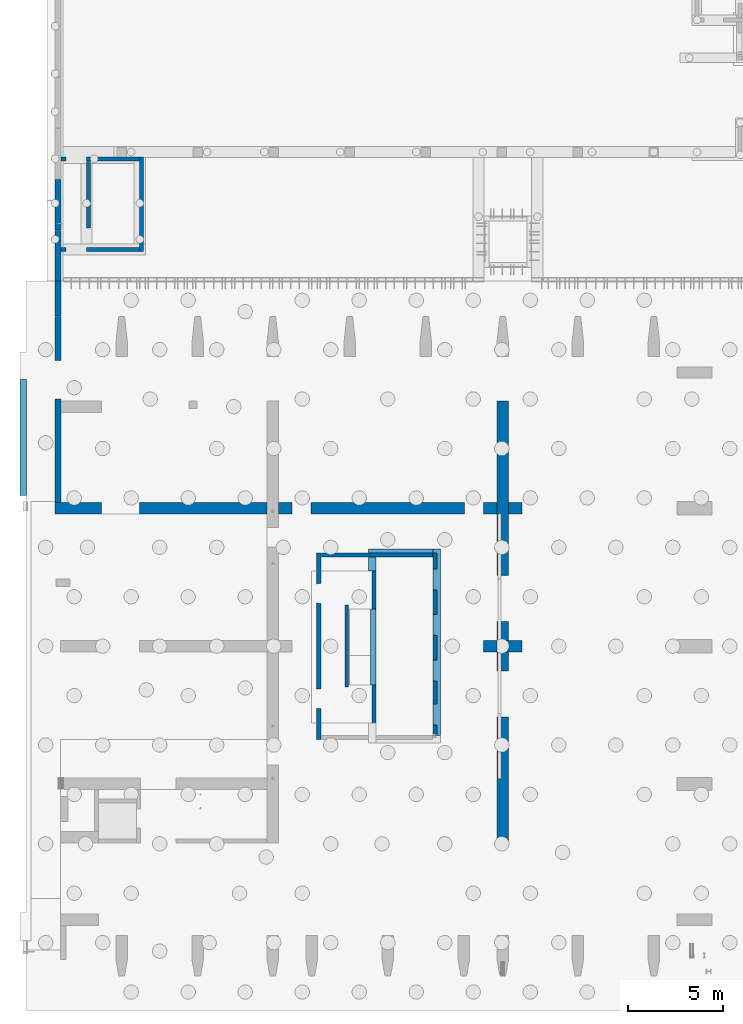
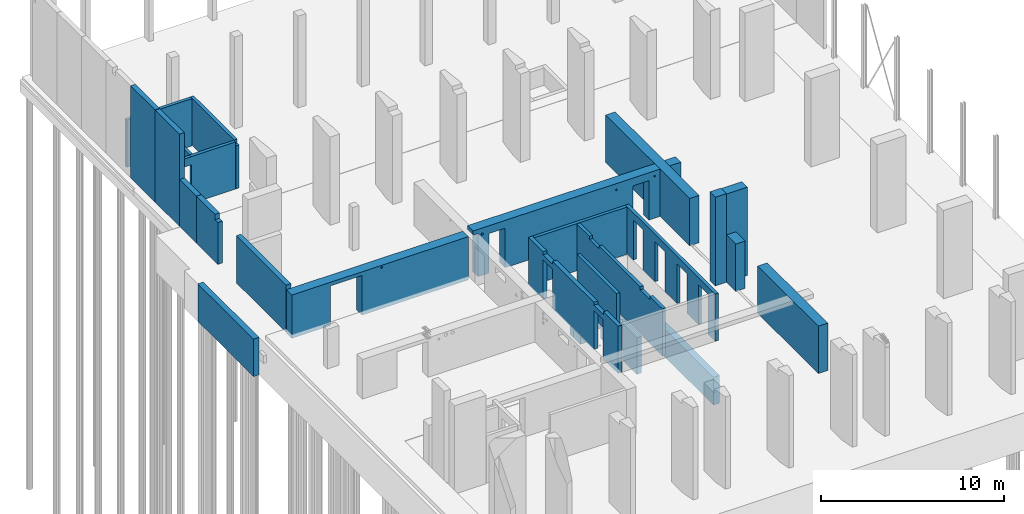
# One storey, part 19 of 26: 24 walls, 35 openings.
"""IFC2X3 building model written with IfcOpenShell, lengths in millimetres."""

from ifc_helpers import new_model, entity, si_unit, converted_unit, derived_unit, direction, frame, frame_2d, origin, origin_2d_with_axis, place, context, subcontext, project, spatial, rectangle, circle, extrude, faceted_brep, material, layer, layer_set, layer_usage, type_object, element, save


model = new_model("IFC2X3")

# Units and contexts
model_context = context("Model", 3, precision=0.01, world=origin(), true_north=direction((6.12303176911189e-17, 1.0)))
body_context = subcontext(model_context, "Body", "Model", "MODEL_VIEW")
ifc_project = project(units=[si_unit("LENGTHUNIT", "METRE", prefix="MILLI"), si_unit("AREAUNIT", "SQUARE_METRE"), si_unit("VOLUMEUNIT", "CUBIC_METRE"), converted_unit("PLANEANGLEUNIT", "DEGREE", entity("IfcRatioMeasure", 0.0174532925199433), si_unit("PLANEANGLEUNIT", "RADIAN"), dimensions=[0, 0, 0, 0, 0, 0, 0]), si_unit("MASSUNIT", "GRAM", prefix="KILO"), derived_unit("MASSDENSITYUNIT", [(si_unit("MASSUNIT", "GRAM", prefix="KILO"), 1), (si_unit("LENGTHUNIT", "METRE"), -3)]), si_unit("TIMEUNIT", "SECOND"), si_unit("FREQUENCYUNIT", "HERTZ"), si_unit("THERMODYNAMICTEMPERATUREUNIT", "DEGREE_CELSIUS"), derived_unit("THERMALTRANSMITTANCEUNIT", [(si_unit("MASSUNIT", "GRAM", prefix="KILO"), 1), (si_unit("THERMODYNAMICTEMPERATUREUNIT", "KELVIN"), -1), (si_unit("TIMEUNIT", "SECOND"), -3)]), derived_unit("VOLUMETRICFLOWRATEUNIT", [(si_unit("LENGTHUNIT", "METRE"), 3), (si_unit("TIMEUNIT", "SECOND"), -1)]), si_unit("ELECTRICCURRENTUNIT", "AMPERE"), si_unit("ELECTRICVOLTAGEUNIT", "VOLT"), si_unit("POWERUNIT", "WATT"), si_unit("FORCEUNIT", "NEWTON", prefix="KILO"), si_unit("ILLUMINANCEUNIT", "LUX"), si_unit("LUMINOUSFLUXUNIT", "LUMEN"), si_unit("LUMINOUSINTENSITYUNIT", "CANDELA"), derived_unit("USERDEFINED", [(si_unit("MASSUNIT", "GRAM", prefix="KILO"), -1), (si_unit("LENGTHUNIT", "METRE"), -2), (si_unit("TIMEUNIT", "SECOND"), 3), (si_unit("LUMINOUSFLUXUNIT", "LUMEN"), 1)]), derived_unit("LINEARVELOCITYUNIT", [(si_unit("LENGTHUNIT", "METRE"), 1), (si_unit("TIMEUNIT", "SECOND"), -1)]), si_unit("PRESSUREUNIT", "PASCAL"), derived_unit("USERDEFINED", [(si_unit("LENGTHUNIT", "METRE"), -2), (si_unit("MASSUNIT", "GRAM", prefix="KILO"), 1), (si_unit("TIMEUNIT", "SECOND"), -2)])], contexts=[model_context])

# Site, building, storey
site_placement = place(None, origin())
site = spatial("IfcSite", under=ifc_project, at=site_placement, Name="Default", CompositionType="ELEMENT")
building_placement = place(site_placement, origin())
building = spatial("IfcBuilding", under=site, at=building_placement, Name="niet gebruiken", CompositionType="ELEMENT")
storey_placement = place(building_placement, origin())
storey = spatial("IfcBuildingStorey", under=building, at=storey_placement, Name="00 begane grond", CompositionType="ELEMENT", Elevation=0.0)

# Walls
ifc_material_1 = material(Name="NLRS_f2_beton ihwg")
ifc_layer_1 = layer(ifc_material_1, 400.0)
ifc_layer_set_1 = layer_set([ifc_layer_1], Name="Basic Wall:NLRS_16.21_WA_beton ihwg d=400_gen")
ifc_layer_usage_1 = layer_usage(ifc_layer_set_1, "AXIS2", "NEGATIVE", 200.0)
wall_type_1 = type_object("IfcWallType", Name="Basic Wall:NLRS_16.21_WA_beton ihwg d=400_gen", PredefinedType="STANDARD", material=ifc_layer_set_1)
wall_1_placement = place(storey_placement, frame((144330.0, 12800.0, -4600.0), z_axis=(0.0, 0.0, 1.0), x_axis=(0.0, 1.0, 0.0)))
element("IfcWallStandardCase", 1, at=wall_1_placement, inside=storey, type_object=wall_type_1, material=ifc_layer_usage_1, Name="Basic Wall:NLRS_16.21_WA_beton ihwg d=400_gen", ObjectType="Basic Wall:NLRS_16.21_WA_beton ihwg d=400_gen", context=body_context, shape_type="SweptSolid", body=[
    extrude(rectangle(XDim=9800.00000000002, YDim=400.000000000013, at=frame_2d((4900.00000000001, 3.69482222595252e-13), x_axis=(-1.0, 0.0))), origin(), (0.0, 0.0, 1.0), 1850.0),
])
ifc_layer_usage_2 = layer_usage(ifc_layer_set_1, "AXIS2", "NEGATIVE", 200.0)
wall_2_placement = place(storey_placement, frame((144130.0, 22400.0, -4600.0), z_axis=(0.0, 0.0, 1.0), x_axis=(-1.0, 0.0, 0.0)))
element("IfcWallStandardCase", 2, at=wall_2_placement, inside=storey, type_object=wall_type_1, material=ifc_layer_usage_2, Name="Basic Wall:NLRS_16.21_WA_beton ihwg d=400_gen", ObjectType="Basic Wall:NLRS_16.21_WA_beton ihwg d=400_gen", context=body_context, shape_type="SweptSolid", body=[
    extrude(rectangle(XDim=3400.00000000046, YDim=399.999999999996, at=frame_2d((1700.00000000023, 5.82645043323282e-13), x_axis=(-1.0, 0.0))), origin(), (0.0, 0.0, 1.0), 1850.0),
])
ifc_layer_usage_3 = layer_usage(ifc_layer_set_1, "AXIS2", "NEGATIVE", 200.0)
wall_3_placement = place(storey_placement, frame((140930.0, 22200.0, -4600.0), z_axis=(0.0, 0.0, 1.0), x_axis=(0.0, -1.0, 0.0)))
element("IfcWallStandardCase", 3, at=wall_3_placement, inside=storey, type_object=wall_type_1, material=ifc_layer_usage_3, Name="Basic Wall:NLRS_16.21_WA_beton ihwg d=400_gen", ObjectType="Basic Wall:NLRS_16.21_WA_beton ihwg d=400_gen", context=body_context, shape_type="SweptSolid", body=[
    extrude(rectangle(XDim=755.000000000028, YDim=400.000000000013, at=frame_2d((377.500000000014, 0.0), x_axis=(-1.0, 0.0))), origin(), (0.0, 0.0, 1.0), 1850.0),
])

# Wall, openings
ifc_layer_2 = layer(ifc_material_1, 600.0)
ifc_layer_set_2 = layer_set([ifc_layer_2], Name="Basic Wall:NLRS_22.21_WA_beton ihwg d=600_gen")
ifc_layer_usage_4 = layer_usage(ifc_layer_set_2, "AXIS2", "NEGATIVE", 300.0)
wall_type_2 = type_object("IfcWallType", Name="Basic Wall:NLRS_22.21_WA_beton ihwg d=600_gen", PredefinedType="STANDARD", material=ifc_layer_set_2)
wall_4_placement = place(storey_placement, frame((124250.0, 24750.0, -250.0)))
wall_4 = element("IfcWallStandardCase", 4, at=wall_4_placement, inside=storey, type_object=wall_type_2, material=ifc_layer_usage_4, Name="Basic Wall:NLRS_22.21_WA_beton ihwg d=600_gen", ObjectType="Basic Wall:NLRS_22.21_WA_beton ihwg d=600_gen", context=body_context, shape_type="SweptSolid", body=[
    extrude(rectangle(XDim=24564.0, YDim=600.000000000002, at=frame_2d((12282.0, -2.8421709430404e-14), x_axis=(-1.0, 0.0))), origin(), (0.0, 0.0, 1.0), 3160.0),
])
opening_1_placement = place(storey_placement, frame((124250.0, 24750.0, -250.0)))
element("IfcOpeningElement", 5, at=opening_1_placement, cuts=wall_4, Name="Basic Wall:NLRS_22.21_WA_beton ihwg d=600_gen:1", ObjectType="Opening", context=body_context, shape_type="SweptSolid", body=[
    extrude(rectangle(XDim=3160.0, YDim=599.999999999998, at=frame_2d((268.000000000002, 59.9999999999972), x_axis=(1.0, 0.0))), frame((23250.0, -60.0, 1848.0), z_axis=(1.0, 0.0, 0.0), x_axis=(0.0, 0.0, -1.0)), (0.0, 0.0, 1.0), 600.000000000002),
])
opening_2_placement = place(storey_placement, frame((124250.0, 24750.0, -250.0)))
element("IfcOpeningElement", 6, at=opening_2_placement, cuts=wall_4, Name="Basic Wall:NLRS_22.21_WA_beton ihwg d=600_gen:2", ObjectType="Opening", context=body_context, shape_type="SweptSolid", body=[
    extrude(rectangle(XDim=2890.0, YDim=599.999999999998, at=origin_2d_with_axis()), frame((11150.0, 0.0, 1445.0), z_axis=(1.0, 0.0, 0.0), x_axis=(0.0, 0.0, -1.0)), (0.0, 0.0, 1.0), 600.000000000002),
])
opening_3_placement = place(wall_4_placement, origin())
element("IfcOpeningElement", 7, at=opening_3_placement, cuts=wall_4, Name="Basic Wall:NLRS_22.21_WA_beton ihwg d=600_gen", ObjectType="Opening", context=body_context, shape_type="SweptSolid", body=[
    extrude(rectangle(XDim=2650.0, YDim=1985.0, at=frame_2d((0.0, -8.69704308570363e-12), x_axis=(1.0, 0.0))), frame((3432.49999999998, -300.0, 1325.0), z_axis=(0.0, 1.0, 0.0), x_axis=(0.0, 0.0, -1.0)), (0.0, 0.0, 1.0), 600.000000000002),
])
opening_4_placement = place(wall_4_placement, origin())
element("IfcOpeningElement", 8, at=opening_4_placement, cuts=wall_4, Name="Basic Wall:NLRS_22.21_WA_beton ihwg d=600_gen", ObjectType="Opening", context=body_context, shape_type="SweptSolid", body=[
    extrude(rectangle(XDim=2635.0, YDim=1015.99999999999, at=frame_2d((0.0, -8.66862137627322e-12), x_axis=(1.0, 0.0))), frame((12958.0, -300.0, 1317.5), z_axis=(0.0, 1.0, 0.0), x_axis=(0.0, 0.0, -1.0)), (0.0, 0.0, 1.0), 600.000000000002),
])
opening_5_placement = place(wall_4_placement, origin())
element("IfcOpeningElement", 9, at=opening_5_placement, cuts=wall_4, Name="Basic Wall:NLRS_22.21_WA_beton ihwg d=600_gen", ObjectType="Opening", context=body_context, shape_type="SweptSolid", body=[
    extrude(rectangle(XDim=2635.0, YDim=1015.99999999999, at=frame_2d((0.0, -8.66862137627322e-12), x_axis=(1.0, 0.0))), frame((22042.0, -300.0, 1317.5), z_axis=(0.0, 1.0, 0.0), x_axis=(0.0, 0.0, -1.0)), (0.0, 0.0, 1.0), 600.000000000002),
])
opening_6_placement = place(wall_4_placement, origin())
element("IfcOpeningElement", 10, at=opening_6_placement, cuts=wall_4, Name="Basic Wall:NLRS_22.21_WA_beton ihwg d=600_gen", ObjectType="Opening", context=body_context, shape_type="SweptSolid", body=[
    extrude(circle(Radius=62.5, at=origin_2d_with_axis()), frame((5675.0, -300.0, 2750.0), z_axis=(0.0, 1.0, 0.0), x_axis=(1.0, 0.0, 0.0)), (0.0, 0.0, 1.0), 600.000000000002),
])
opening_7_placement = place(wall_4_placement, origin())
element("IfcOpeningElement", 11, at=opening_7_placement, cuts=wall_4, Name="Basic Wall:NLRS_22.21_WA_beton ihwg d=600_gen", ObjectType="Opening", context=body_context, shape_type="SweptSolid", body=[
    extrude(circle(Radius=80.0, at=frame_2d((0.0, -5.41433564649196e-13), x_axis=(1.0, 0.0))), frame((12025.0, -300.0, 2750.0), z_axis=(0.0, 1.0, 0.0), x_axis=(1.0, 0.0, 0.0)), (0.0, 0.0, 1.0), 600.000000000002),
])
opening_8_placement = place(wall_4_placement, origin())
element("IfcOpeningElement", 12, at=opening_8_placement, cuts=wall_4, Name="Basic Wall:NLRS_22.21_WA_beton ihwg d=600_gen", ObjectType="Opening", context=body_context, shape_type="SweptSolid", body=[
    extrude(circle(Radius=55.0, at=origin_2d_with_axis()), frame((20485.0, -300.0, 2750.0), z_axis=(0.0, 1.0, 0.0), x_axis=(1.0, 0.0, 0.0)), (0.0, 0.0, 1.0), 600.000000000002),
])
opening_9_placement = place(wall_4_placement, origin())
element("IfcOpeningElement", 13, at=opening_9_placement, cuts=wall_4, Name="Basic Wall:NLRS_22.21_WA_beton ihwg d=600_gen", ObjectType="Opening", context=body_context, shape_type="SweptSolid", body=[
    extrude(circle(Radius=55.0, at=origin_2d_with_axis()), frame((22900.0, -300.0, 2800.0), z_axis=(0.0, 1.0, 0.0), x_axis=(1.0, 0.0, 0.0)), (0.0, 0.0, 1.0), 600.000000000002),
])
opening_10_placement = place(wall_4_placement, origin())
element("IfcOpeningElement", 14, at=opening_10_placement, cuts=wall_4, Name="Basic Wall:NLRS_22.21_WA_beton ihwg d=600_gen", ObjectType="Opening", context=body_context, shape_type="SweptSolid", body=[
    extrude(rectangle(XDim=270.0, YDim=11450.0000000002, at=frame_2d((-8.64019966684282e-12, -2.70006239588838e-13), x_axis=(0.0, 1.0))), frame((5725.0, 300.0, 3025.0), z_axis=(0.0, -1.0, 0.0), x_axis=(-1.0, 0.0, 0.0)), (0.0, 0.0, 1.0), 600.0),
])

# Wall
ifc_layer_usage_5 = layer_usage(ifc_layer_set_2, "AXIS2", "NEGATIVE", 300.0)
wall_5_placement = place(storey_placement, frame((146800.0, 17500.0, -250.0)))
element("IfcWallStandardCase", 15, at=wall_5_placement, inside=storey, type_object=wall_type_2, material=ifc_layer_usage_5, Name="Basic Wall:NLRS_22.21_WA_beton ihwg d=600_gen", ObjectType="Basic Wall:NLRS_22.21_WA_beton ihwg d=600_gen", context=body_context, shape_type="SweptSolid", body=[
    extrude(rectangle(XDim=700.000000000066, YDim=600.000000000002, at=frame_2d((350.000000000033, 5.6843418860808e-14), x_axis=(-1.0, 0.0))), origin(), (0.0, 0.0, 1.0), 5920.0),
])

# Wall, openings
ifc_layer_usage_6 = layer_usage(ifc_layer_set_2, "AXIS2", "POSITIVE", -300.0)
wall_6_placement = place(storey_placement, frame((147800.0, 7150.0, -250.0), z_axis=(0.0, 0.0, 1.0), x_axis=(0.0, 1.0, 0.0)))
wall_6 = element("IfcWallStandardCase", 16, at=wall_6_placement, inside=storey, type_object=wall_type_2, material=ifc_layer_usage_6, Name="Basic Wall:NLRS_22.21_WA_beton ihwg d=600_gen", ObjectType="Basic Wall:NLRS_22.21_WA_beton ihwg d=600_gen", context=body_context, shape_type="SweptSolid", body=[
    extrude(rectangle(XDim=23249.9999597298, YDim=600.000000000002, at=frame_2d((11624.9999798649, 2.04636307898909e-12), x_axis=(-1.0, 0.0))), origin(), (0.0, 0.0, 1.0), 3160.0),
])
opening_11_placement = place(storey_placement, frame((147800.0, 7150.0, -250.0), z_axis=(0.0, 0.0, 1.0), x_axis=(0.0, 1.0, 0.0)))
element("IfcOpeningElement", 17, at=opening_11_placement, cuts=wall_6, Name="Basic Wall:NLRS_22.21_WA_beton ihwg d=600_gen:1", ObjectType="Opening", context=body_context, shape_type="SweptSolid", body=[
    extrude(rectangle(XDim=3160.0, YDim=600.000000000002, at=origin_2d_with_axis()), frame((10050.0, 0.0, 1580.0), z_axis=(1.0, 0.0, 0.0), x_axis=(0.0, 0.0, -1.0)), (0.0, 0.0, 1.0), 600.0),
])
opening_12_placement = place(wall_6_placement, origin())
element("IfcOpeningElement", 18, at=opening_12_placement, cuts=wall_6, Name="Basic Wall:NLRS_22.21_WA_beton ihwg d=600_gen", ObjectType="Opening", context=body_context, shape_type="SweptSolid", body=[
    extrude(rectangle(XDim=3560.0, YDim=2410.0, at=frame_2d((0.0, -1.13686837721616e-12), x_axis=(1.0, 0.0))), frame((7837.50000000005, -300.0, 1780.0), z_axis=(0.0, 1.0, 0.0), x_axis=(0.0, 0.0, -1.0)), (0.0, 0.0, 1.0), 600.000000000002),
])
opening_13_placement = place(wall_6_placement, origin())
element("IfcOpeningElement", 19, at=opening_13_placement, cuts=wall_6, Name="Basic Wall:NLRS_22.21_WA_beton ihwg d=600_gen", ObjectType="Opening", context=body_context, shape_type="SweptSolid", body=[
    extrude(rectangle(XDim=3560.0, YDim=2410.0, at=frame_2d((0.0, 1.13686837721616e-12), x_axis=(1.0, 0.0))), frame((12862.5, -300.0, 1780.0), z_axis=(0.0, 1.0, 0.0), x_axis=(0.0, 0.0, -1.0)), (0.0, 0.0, 1.0), 600.000000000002),
])
opening_14_placement = place(wall_6_placement, origin())
element("IfcOpeningElement", 20, at=opening_14_placement, cuts=wall_6, Name="Basic Wall:NLRS_22.21_WA_beton ihwg d=600_gen", ObjectType="Opening", context=body_context, shape_type="SweptSolid", body=[
    extrude(rectangle(XDim=100.0, YDim=240.000000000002, at=frame_2d((-5.43565192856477e-13, -2.16715534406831e-12), x_axis=(1.0, 0.0))), frame((15650.0, -300.0, 5500.0), z_axis=(0.0, 1.0, 0.0), x_axis=(0.0, 0.0, -1.0)), (0.0, 0.0, 1.0), 600.000000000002),
])

# Wall
ifc_layer_usage_7 = layer_usage(ifc_layer_set_2, "AXIS2", "NEGATIVE", 300.0)
wall_7_placement = place(storey_placement, frame((147500.0, 17500.0, -250.0)))
element("IfcWallStandardCase", 21, at=wall_7_placement, inside=storey, type_object=wall_type_2, material=ifc_layer_usage_7, Name="Basic Wall:NLRS_22.21_WA_beton ihwg d=600_gen", ObjectType="Basic Wall:NLRS_22.21_WA_beton ihwg d=600_gen", context=body_context, shape_type="SweptSolid", body=[
    extrude(rectangle(XDim=1313.99999999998, YDim=600.000000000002, at=frame_2d((656.999999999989, -8.5265128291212e-14), x_axis=(-1.0, 0.0))), origin(), (0.0, 0.0, 1.0), 5890.0),
])

# Wall, openings
ifc_material_2 = material(Name="NLRS_f2_beton prefab")
ifc_layer_3 = layer(ifc_material_2, 200.0)
ifc_layer_set_3 = layer_set([ifc_layer_3], Name="Basic Wall:NLRS_22.21_WA_beton prefab d=200_gen")
ifc_layer_usage_8 = layer_usage(ifc_layer_set_3, "AXIS2", "NEGATIVE", 100.0)
wall_type_3 = type_object("IfcWallType", Name="Basic Wall:NLRS_22.21_WA_beton prefab d=200_gen", PredefinedType="STANDARD", material=ifc_layer_set_3)
wall_8_placement = place(storey_placement, frame((124570.0, 43130.0, -220.0)))
wall_8 = element("IfcWallStandardCase", 22, at=wall_8_placement, inside=storey, type_object=wall_type_3, material=ifc_layer_usage_8, Name="Basic Wall:NLRS_22.21_WA_beton prefab d=200_gen", ObjectType="Basic Wall:NLRS_22.21_WA_beton prefab d=200_gen", context=body_context, shape_type="SweptSolid", body=[
    extrude(rectangle(XDim=1329.99999999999, YDim=200.000000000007, at=frame_2d((664.999999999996, -2.35189645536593e-12), x_axis=(-1.0, 0.0))), origin(), (0.0, 0.0, 1.0), 3150.0),
])
opening_15_placement = place(wall_8_placement, origin())
element("IfcOpeningElement", 23, at=opening_15_placement, cuts=wall_8, Name="Basic Wall:NLRS_22.21_WA_beton prefab d=200_gen", ObjectType="Opening", context=body_context, shape_type="SweptSolid", body=[
    extrude(rectangle(XDim=2605.0, YDim=1080.0, at=origin_2d_with_axis()), frame((790.0, -100.0, 1302.5), z_axis=(0.0, 1.0, 0.0), x_axis=(0.0, 0.0, -1.0)), (0.0, 0.0, 1.0), 200.000000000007),
])
opening_16_placement = place(wall_8_placement, frame((238.0, -100.0, 0.0)))
element("IfcOpeningElement", 24, at=opening_16_placement, cuts=wall_8, Name="Basic Wall:NLRS_22.21_WA_beton prefab d=200_gen", ObjectType="Opening", context=body_context, shape_type="Brep", body=[
    faceted_brep([(12.0, 200.0, 2605.0), (1092.0, 200.0, 2605.0), (1092.0, 200.0, 0.0), (12.0, 200.0, 0.0), (0.0, 0.0, 2617.0), (0.0, 0.0, 0.0), (1104.0, 0.0, 0.0), (1104.0, 0.0, 2617.0)], [[[0, 1, 2, 3]], [[4, 5, 6, 7]], [[4, 7, 1, 0]], [[7, 6, 2, 1]], [[6, 5, 3, 2]], [[5, 4, 0, 3]]]),
])

ifc_layer_usage_9 = layer_usage(ifc_layer_set_3, "AXIS2", "NEGATIVE", 100.0)
wall_9_placement = place(storey_placement, frame((124570.0, 38370.0, -220.0)))
wall_9 = element("IfcWallStandardCase", 25, at=wall_9_placement, inside=storey, type_object=wall_type_3, material=ifc_layer_usage_9, Name="Basic Wall:NLRS_22.21_WA_beton prefab d=200_gen", ObjectType="Basic Wall:NLRS_22.21_WA_beton prefab d=200_gen", context=body_context, shape_type="SweptSolid", body=[
    extrude(rectangle(XDim=4109.99999999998, YDim=199.999999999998, at=frame_2d((2054.99999999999, -3.90798504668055e-13), x_axis=(-1.0, 0.0))), origin(), (0.0, 0.0, 1.0), 3150.0),
])
opening_17_placement = place(wall_9_placement, origin())
element("IfcOpeningElement", 26, at=opening_17_placement, cuts=wall_9, Name="Basic Wall:NLRS_22.21_WA_beton prefab d=200_gen", ObjectType="Opening", context=body_context, shape_type="SweptSolid", body=[
    extrude(rectangle(XDim=19.9999999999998, YDim=1040.00000000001, at=frame_2d((0.0, -1.72803993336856e-11), x_axis=(1.0, 0.0))), frame((784.0, -100.0, 3140.0), z_axis=(0.0, 1.0, 0.0), x_axis=(0.0, 0.0, -1.0)), (0.0, 0.0, 1.0), 200.000000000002),
])
opening_18_placement = place(wall_9_placement, frame((238.0, -100.0, 0.0)))
element("IfcOpeningElement", 27, at=opening_18_placement, cuts=wall_9, Name="Basic Wall:NLRS_22.21_WA_beton prefab d=200_gen", ObjectType="Opening", context=body_context, shape_type="Brep", body=[
    faceted_brep([(1092.0, 0.0, 2605.0), (12.0, 0.0, 2605.0), (12.0, 0.0, 0.0), (1092.0, 0.0, 0.0), (1104.0, 200.0, 2617.0), (1104.0, 200.0, 0.0), (0.0, 200.0, 0.0), (0.0, 200.0, 2617.0)], [[[0, 1, 2, 3]], [[4, 5, 6, 7]], [[4, 7, 1, 0]], [[7, 6, 2, 1]], [[6, 5, 3, 2]], [[5, 4, 0, 3]]]),
])

ifc_layer_usage_10 = layer_usage(ifc_layer_set_3, "AXIS2", "NEGATIVE", 100.0)
wall_10_placement = place(storey_placement, frame((126000.0, 38490.0, -220.0), z_axis=(0.0, 0.0, 1.0), x_axis=(0.0, 1.0, 0.0)))
wall_10 = element("IfcWallStandardCase", 28, at=wall_10_placement, inside=storey, type_object=wall_type_3, material=ifc_layer_usage_10, Name="Basic Wall:NLRS_22.21_WA_beton prefab d=200_gen", ObjectType="Basic Wall:NLRS_22.21_WA_beton prefab d=200_gen", context=body_context, shape_type="SweptSolid", body=[
    extrude(rectangle(XDim=4520.00000000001, YDim=199.999999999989, at=frame_2d((2260.0, 0.0), x_axis=(-1.0, 0.0))), origin(), (0.0, 0.0, 1.0), 3150.0),
])
opening_19_placement = place(wall_10_placement, frame((-32.0, 100.0, 0.0)))
element("IfcOpeningElement", 29, at=opening_19_placement, cuts=wall_10, Name="Basic Wall:NLRS_22.21_WA_beton prefab d=200_gen", ObjectType="Opening", context=body_context, shape_type="Brep", body=[
    faceted_brep([(1038.0, 0.0, 2605.0), (1038.0, 0.0, 0.0), (12.0, 0.0, 0.0), (12.0, 0.0, 2605.0), (1050.0, -200.0, 2617.0), (0.0, -200.0, 2617.0), (0.0, -200.0, 0.0), (1050.0, -200.0, 0.0)], [[[0, 1, 2, 3]], [[4, 5, 6, 7]], [[4, 0, 3, 5]], [[5, 3, 2, 6]], [[6, 2, 1, 7]], [[7, 1, 0, 4]]]),
])
opening_20_placement = place(wall_10_placement, origin())
element("IfcOpeningElement", 30, at=opening_20_placement, cuts=wall_10, Name="Basic Wall:NLRS_22.21_WA_beton prefab d=200_gen", ObjectType="Opening", context=body_context, shape_type="SweptSolid", body=[
    extrude(rectangle(XDim=19.9999999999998, YDim=1017.99999999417, at=origin_2d_with_axis()), frame((509.0, -100.0, 3140.0), z_axis=(0.0, 1.0, 0.0), x_axis=(0.0, 0.0, -1.0)), (0.0, 0.0, 1.0), 199.999999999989),
])

# Wall, opening
ifc_layer_usage_11 = layer_usage(ifc_layer_set_3, "AXIS2", "NEGATIVE", 100.0)
wall_11_placement = place(storey_placement, frame((128800.0, 38270.0, -220.0), z_axis=(0.0, 0.0, 1.0), x_axis=(0.0, 1.0, 0.0)))
wall_11 = element("IfcWallStandardCase", 31, at=wall_11_placement, inside=storey, type_object=wall_type_3, material=ifc_layer_usage_11, Name="Basic Wall:NLRS_22.21_WA_beton prefab d=200_gen", ObjectType="Basic Wall:NLRS_22.21_WA_beton prefab d=200_gen", context=body_context, shape_type="SweptSolid", body=[
    extrude(rectangle(XDim=4960.0, YDim=199.999999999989, at=frame_2d((2480.0, 0.0), x_axis=(-1.0, 0.0))), origin(), (0.0, 0.0, 1.0), 3150.0),
])
opening_21_placement = place(wall_11_placement, origin())
element("IfcOpeningElement", 32, at=opening_21_placement, cuts=wall_11, Name="Basic Wall:NLRS_22.21_WA_beton prefab d=200_gen", ObjectType="Opening", context=body_context, shape_type="SweptSolid", body=[
    extrude(rectangle(XDim=270.0, YDim=199.999999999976, at=frame_2d((2.16715534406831e-12, -2.70006239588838e-13), x_axis=(0.0, 1.0))), frame((100.0, 100.0, 3015.0), z_axis=(0.0, -1.0, 0.0), x_axis=(-1.0, 0.0, 0.0)), (0.0, 0.0, 1.0), 200.0),
])

# Wall, openings
ifc_layer_usage_12 = layer_usage(ifc_layer_set_3, "AXIS2", "NEGATIVE", 100.0)
wall_12_placement = place(storey_placement, frame((144230.0, 22400.0, -220.0), z_axis=(0.0, 0.0, 1.0), x_axis=(0.0, -1.0, 0.0)))
wall_12 = element("IfcWallStandardCase", 33, at=wall_12_placement, inside=storey, type_object=wall_type_3, material=ifc_layer_usage_12, Name="Basic Wall:NLRS_22.21_WA_beton prefab d=200_gen", ObjectType="Basic Wall:NLRS_22.21_WA_beton prefab d=200_gen", context=body_context, shape_type="SweptSolid", body=[
    extrude(rectangle(XDim=9800.0, YDim=199.999999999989, at=frame_2d((4900.0, -3.69482222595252e-13), x_axis=(-1.0, 0.0))), origin(), (0.0, 0.0, 1.0), 3150.0),
])
opening_22_placement = place(wall_12_placement, frame((9047.0, -100.0, 0.0)))
element("IfcOpeningElement", 34, at=opening_22_placement, cuts=wall_12, Name="Basic Wall:NLRS_22.21_WA_beton prefab d=200_gen", ObjectType="Opening", context=body_context, shape_type="Brep", body=[
    faceted_brep([(-1104.0, 200.0, 2672.0), (-1104.0, 200.0, 0.0), (-1092.0, 0.0, 0.0), (-1092.0, 0.0, 2660.0), (0.0, 200.0, 0.0), (-12.0, 0.0, 0.0), (-12.0, 0.0, 2660.0), (0.0, 200.0, 2672.0)], [[[0, 1, 2, 3]], [[1, 4, 5, 2]], [[6, 3, 2, 5]], [[7, 4, 1, 0]], [[7, 0, 3, 6]], [[4, 7, 6, 5]]]),
])
opening_23_placement = place(wall_12_placement, frame((6737.0, -100.0, 0.0)))
element("IfcOpeningElement", 35, at=opening_23_placement, cuts=wall_12, Name="Basic Wall:NLRS_22.21_WA_beton prefab d=200_gen", ObjectType="Opening", context=body_context, shape_type="Brep", body=[
    faceted_brep([(-1104.0, 200.0, 2672.0), (-1104.0, 200.0, 0.0), (-1092.0, 0.0, 0.0), (-1092.0, 0.0, 2660.0), (0.0, 200.0, 0.0), (-12.0, 0.0, 0.0), (-12.0, 0.0, 2660.0), (0.0, 200.0, 2672.0)], [[[0, 1, 2, 3]], [[1, 4, 5, 2]], [[6, 3, 2, 5]], [[7, 4, 1, 0]], [[7, 0, 3, 6]], [[4, 7, 6, 5]]]),
])
opening_24_placement = place(wall_12_placement, frame((4332.0, -100.0, 0.0)))
element("IfcOpeningElement", 36, at=opening_24_placement, cuts=wall_12, Name="Basic Wall:NLRS_22.21_WA_beton prefab d=200_gen", ObjectType="Opening", context=body_context, shape_type="Brep", body=[
    faceted_brep([(-1104.0, 200.0, 2672.0), (-1104.0, 200.0, 0.0), (-1092.0, 0.0, 0.0), (-1092.0, 0.0, 2660.0), (0.0, 200.0, 0.0), (-12.0, 0.0, 0.0), (-12.0, 0.0, 2660.0), (0.0, 200.0, 2672.0)], [[[0, 1, 2, 3]], [[1, 4, 5, 2]], [[6, 3, 2, 5]], [[7, 4, 1, 0]], [[7, 0, 3, 6]], [[4, 7, 6, 5]]]),
])
opening_25_placement = place(wall_12_placement, frame((1942.0, -100.0, 0.0)))
element("IfcOpeningElement", 37, at=opening_25_placement, cuts=wall_12, Name="Basic Wall:NLRS_22.21_WA_beton prefab d=200_gen", ObjectType="Opening", context=body_context, shape_type="Brep", body=[
    faceted_brep([(-1104.0, 200.0, 2672.0), (-1104.0, 200.0, 0.0), (-1092.0, 0.0, 0.0), (-1092.0, 0.0, 2660.0), (0.0, 200.0, 0.0), (-12.0, 0.0, 0.0), (-12.0, 0.0, 2660.0), (0.0, 200.0, 2672.0)], [[[0, 1, 2, 3]], [[1, 4, 5, 2]], [[6, 3, 2, 5]], [[7, 4, 1, 0]], [[7, 0, 3, 6]], [[4, 7, 6, 5]]]),
])

ifc_layer_usage_13 = layer_usage(ifc_layer_set_3, "AXIS2", "NEGATIVE", 100.0)
wall_13_placement = place(storey_placement, frame((141030.0, 22180.0, -220.0), z_axis=(0.0, 0.0, 1.0), x_axis=(0.0, -1.0, 0.0)))
wall_13 = element("IfcWallStandardCase", 38, at=wall_13_placement, inside=storey, type_object=wall_type_3, material=ifc_layer_usage_13, Name="Basic Wall:NLRS_22.21_WA_beton prefab d=200_gen", ObjectType="Basic Wall:NLRS_22.21_WA_beton prefab d=200_gen", context=body_context, shape_type="SweptSolid", body=[
    extrude(rectangle(XDim=9360.0, YDim=199.999999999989, at=frame_2d((4680.0, -2.8421709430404e-14), x_axis=(-1.0, 0.0))), origin(), (0.0, 0.0, 1.0), 3150.0),
])
opening_26_placement = place(wall_13_placement, origin())
element("IfcOpeningElement", 39, at=opening_26_placement, cuts=wall_13, Name="Basic Wall:NLRS_22.21_WA_beton prefab d=200_gen", ObjectType="Opening", context=body_context, shape_type="SweptSolid", body=[
    extrude(rectangle(XDim=199.999999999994, YDim=1044.0, at=frame_2d((0.0, 2.1600499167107e-12), x_axis=(1.0, 0.0))), frame((7452.0, -100.0, 3050.0), z_axis=(0.0, 1.0, 0.0), x_axis=(0.0, 0.0, -1.0)), (0.0, 0.0, 1.0), 199.999999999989),
])
opening_27_placement = place(wall_13_placement, origin())
element("IfcOpeningElement", 40, at=opening_27_placement, cuts=wall_13, Name="Basic Wall:NLRS_22.21_WA_beton prefab d=200_gen", ObjectType="Opening", context=body_context, shape_type="SweptSolid", body=[
    extrude(rectangle(XDim=199.999999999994, YDim=1044.0, at=frame_2d((0.0, 2.1600499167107e-12), x_axis=(1.0, 0.0))), frame((1908.0, -100.0, 3050.0), z_axis=(0.0, 1.0, 0.0), x_axis=(0.0, 0.0, -1.0)), (0.0, 0.0, 1.0), 199.999999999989),
])

# Walls
ifc_layer_usage_14 = layer_usage(ifc_layer_set_3, "AXIS2", "NEGATIVE", 100.0)
wall_14_placement = place(storey_placement, frame((139590.0, 19660.0, -220.0), z_axis=(0.0, 0.0, 1.0), x_axis=(0.0, -1.0, 0.0)))
element("IfcWallStandardCase", 41, at=wall_14_placement, inside=storey, type_object=wall_type_3, material=ifc_layer_usage_14, Name="Basic Wall:NLRS_22.21_WA_beton prefab d=200_gen", ObjectType="Basic Wall:NLRS_22.21_WA_beton prefab d=200_gen", context=body_context, shape_type="SweptSolid", body=[
    extrude(rectangle(XDim=4320.00000000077, YDim=199.999999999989, at=frame_2d((2160.00000000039, 0.0), x_axis=(-1.0, 0.0))), origin(), (0.0, 0.0, 1.0), 3150.0),
])
ifc_layer_usage_15 = layer_usage(ifc_layer_set_3, "AXIS2", "NEGATIVE", 100.0)
wall_15_placement = place(storey_placement, frame((138270.0, 22300.0, -220.0)))
element("IfcWallStandardCase", 42, at=wall_15_placement, inside=storey, type_object=wall_type_3, material=ifc_layer_usage_15, Name="Basic Wall:NLRS_22.21_WA_beton prefab d=200_gen", ObjectType="Basic Wall:NLRS_22.21_WA_beton prefab d=200_gen", context=body_context, shape_type="SweptSolid", body=[
    extrude(rectangle(XDim=5840.00000000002, YDim=199.999999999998, at=frame_2d((2920.00000000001, -7.60280727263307e-13), x_axis=(-1.0, 0.0))), origin(), (0.0, 0.0, 1.0), 3150.0),
])
ifc_layer_usage_16 = layer_usage(ifc_layer_set_3, "AXIS2", "NEGATIVE", 100.0)
wall_16_placement = place(storey_placement, frame((125900.0, 43130.0, -220.0)))
element("IfcWallStandardCase", 43, at=wall_16_placement, inside=storey, type_object=wall_type_3, material=ifc_layer_usage_16, Name="Basic Wall:NLRS_22.21_WA_beton prefab d=200_gen", ObjectType="Basic Wall:NLRS_22.21_WA_beton prefab d=200_gen", context=body_context, shape_type="SweptSolid", body=[
    extrude(rectangle(XDim=2779.99999999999, YDim=200.000000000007, at=frame_2d((1390.0, -2.06057393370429e-13), x_axis=(-1.0, 0.0))), origin(), (0.0, 0.0, 1.0), 3150.0),
])
ifc_layer_4 = layer(ifc_material_2, 300.0)
ifc_layer_set_4 = layer_set([ifc_layer_4], Name="Basic Wall:NLRS_22.21_WA_beton prefab d=300_gen")
ifc_layer_usage_17 = layer_usage(ifc_layer_set_4, "AXIS2", "NEGATIVE", 150.0)
wall_type_4 = type_object("IfcWallType", Name="Basic Wall:NLRS_22.21_WA_beton prefab d=300_gen", PredefinedType="STANDARD", material=ifc_layer_set_4)
wall_17_placement = place(storey_placement, frame((124400.0, 25070.0, -220.0), z_axis=(0.0, 0.0, 1.0), x_axis=(0.0, 1.0, 0.0)))
element("IfcWallStandardCase", 44, at=wall_17_placement, inside=storey, type_object=wall_type_4, material=ifc_layer_usage_17, Name="Basic Wall:NLRS_22.21_WA_beton prefab d=300_gen", ObjectType="Basic Wall:NLRS_22.21_WA_beton prefab d=300_gen", context=body_context, shape_type="SweptSolid", body=[
    extrude(rectangle(XDim=5439.99999999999, YDim=300.000000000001, at=frame_2d((2720.0, 0.0), x_axis=(-1.0, 0.0))), origin(), (0.0, 0.0, 1.0), 3150.0),
])
ifc_layer_usage_18 = layer_usage(ifc_layer_set_4, "AXIS2", "NEGATIVE", 150.0)
wall_18_placement = place(storey_placement, frame((124400.0, 36720.0, -220.0), z_axis=(0.0, 0.0, 1.0), x_axis=(0.0, 1.0, 0.0)))
element("IfcWallStandardCase", 45, at=wall_18_placement, inside=storey, type_object=wall_type_4, material=ifc_layer_usage_18, Name="Basic Wall:NLRS_22.21_WA_beton prefab d=300_gen", ObjectType="Basic Wall:NLRS_22.21_WA_beton prefab d=300_gen", context=body_context, shape_type="SweptSolid", body=[
    extrude(rectangle(XDim=2660.0, YDim=300.000000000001, at=frame_2d((1330.0, 0.0), x_axis=(-1.0, 0.0))), origin(), (0.0, 0.0, 1.0), 6150.0),
])
ifc_layer_usage_19 = layer_usage(ifc_layer_set_4, "AXIS2", "NEGATIVE", 150.0)
wall_19_placement = place(storey_placement, frame((124400.0, 34870.0, -220.0), z_axis=(0.0, 0.0, 1.0), x_axis=(0.0, 1.0, 0.0)))
element("IfcWallStandardCase", 46, at=wall_19_placement, inside=storey, type_object=wall_type_4, material=ifc_layer_usage_19, Name="Basic Wall:NLRS_22.21_WA_beton prefab d=300_gen", ObjectType="Basic Wall:NLRS_22.21_WA_beton prefab d=300_gen", context=body_context, shape_type="SweptSolid", body=[
    extrude(rectangle(XDim=1830.0, YDim=300.000000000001, at=frame_2d((915.000000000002, 0.0), x_axis=(-1.0, 0.0))), origin(), (0.0, 0.0, 1.0), 3150.0),
])

# Wall, opening
ifc_layer_usage_20 = layer_usage(ifc_layer_set_4, "AXIS2", "NEGATIVE", 150.0)
wall_20_placement = place(storey_placement, frame((124400.0, 32540.0, -220.0), z_axis=(0.0, 0.0, 1.0), x_axis=(0.0, 1.0, 0.0)))
wall_20 = element("IfcWallStandardCase", 47, at=wall_20_placement, inside=storey, type_object=wall_type_4, material=ifc_layer_usage_20, Name="Basic Wall:NLRS_22.21_WA_beton prefab d=300_gen", ObjectType="Basic Wall:NLRS_22.21_WA_beton prefab d=300_gen", context=body_context, shape_type="SweptSolid", body=[
    extrude(rectangle(XDim=2310.00004027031, YDim=300.000000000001, at=frame_2d((1155.00002013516, 0.0), x_axis=(-1.0, 0.0))), origin(), (0.0, 0.0, 1.0), 3150.0),
])
opening_28_placement = place(wall_20_placement, origin())
element("IfcOpeningElement", 48, at=opening_28_placement, cuts=wall_20, Name="Basic Wall:NLRS_22.21_WA_beton prefab d=300_gen", ObjectType="Opening", context=body_context, shape_type="SweptSolid", body=[
    extrude(rectangle(XDim=360.000000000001, YDim=310.000080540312, at=frame_2d((0.0, 2.70006239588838e-13), x_axis=(0.0, 1.0))), frame((155.000040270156, 150.0, 2970.0), z_axis=(0.0, -1.0, 0.0), x_axis=(-1.0, 0.0, 0.0)), (0.0, 0.0, 1.0), 300.0),
])

# Wall
ifc_layer_usage_21 = layer_usage(ifc_layer_set_4, "AXIS2", "NEGATIVE", 150.0)
wall_21_placement = place(storey_placement, frame((124400.0, 39400.0, -220.0), z_axis=(0.0, 0.0, 1.0), x_axis=(0.0, 1.0, 0.0)))
element("IfcWallStandardCase", 49, at=wall_21_placement, inside=storey, type_object=wall_type_4, material=ifc_layer_usage_21, Name="Basic Wall:NLRS_22.21_WA_beton prefab d=300_gen", ObjectType="Basic Wall:NLRS_22.21_WA_beton prefab d=300_gen", context=body_context, shape_type="SweptSolid", body=[
    extrude(rectangle(XDim=2660.0, YDim=300.000000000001, at=frame_2d((1330.0, 0.0), x_axis=(-1.0, 0.0))), origin(), (0.0, 0.0, 1.0), 6150.0),
])

# Wall, openings
ifc_layer_5 = layer(ifc_material_1, 300.0)
ifc_layer_set_5 = layer_set([ifc_layer_5], Name="Basic Wall:NLRS_21.21_WA_beton ihwg d=300_gen")
ifc_layer_usage_22 = layer_usage(ifc_layer_set_5, "AXIS2", "NEGATIVE", 150.0)
wall_type_5 = type_object("IfcWallType", Name="Basic Wall:NLRS_21.21_WA_beton ihwg d=300_gen", PredefinedType="STANDARD", material=ifc_layer_set_5)
wall_22_placement = place(storey_placement, frame((140980.0, 19445.0, -3000.0), z_axis=(0.0, 0.0, 1.0), x_axis=(0.0, -1.0, 0.0)))
wall_22 = element("IfcWallStandardCase", 50, at=wall_22_placement, inside=storey, type_object=wall_type_5, material=ifc_layer_usage_22, Name="Basic Wall:NLRS_21.21_WA_beton ihwg d=300_gen", ObjectType="Basic Wall:NLRS_21.21_WA_beton ihwg d=300_gen", context=body_context, shape_type="SweptSolid", body=[
    extrude(rectangle(XDim=3999.99999999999, YDim=300.000000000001, at=frame_2d((1999.99999999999, 0.0), x_axis=(-1.0, 0.0))), origin(), (0.0, 0.0, 1.0), 2450.0),
])
opening_29_placement = place(wall_22_placement, origin())
element("IfcOpeningElement", 51, at=opening_29_placement, cuts=wall_22, Name="Basic Wall:NLRS_21.21_WA_beton ihwg d=300_gen", ObjectType="Opening", context=body_context, shape_type="SweptSolid", body=[
    extrude(rectangle(XDim=2100.0, YDim=879.999999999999, at=frame_2d((0.0, 0.0), x_axis=(0.0, 1.0))), frame((2000.0, -150.0, 1050.0), z_axis=(0.0, 1.0, 0.0), x_axis=(1.0, 0.0, 0.0)), (0.0, 0.0, 1.0), 300.000000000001),
])
opening_30_placement = place(wall_22_placement, origin())
element("IfcOpeningElement", 52, at=opening_30_placement, cuts=wall_22, Name="Basic Wall:NLRS_21.21_WA_beton ihwg d=300_gen", ObjectType="Opening", context=body_context, shape_type="SweptSolid", body=[
    extrude(circle(Radius=20.0, at=origin_2d_with_axis()), frame((2590.0, -350.0, 1090.0), z_axis=(0.0, 1.0, 0.0), x_axis=(-1.0, 0.0, 0.0)), (0.0, 0.0, 1.0), 500.000000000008),
])
opening_31_placement = place(wall_22_placement, origin())
element("IfcOpeningElement", 53, at=opening_31_placement, cuts=wall_22, Name="Basic Wall:NLRS_21.21_WA_beton ihwg d=300_gen", ObjectType="Opening", context=body_context, shape_type="SweptSolid", body=[
    extrude(circle(Radius=20.0, at=origin_2d_with_axis()), frame((1410.0, -350.0, 1090.0), z_axis=(0.0, 1.0, 0.0), x_axis=(1.0, 0.0, 0.0)), (0.0, 0.0, 1.0), 500.000000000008),
])

ifc_layer_6 = layer(ifc_material_2, 250.0)
ifc_layer_set_6 = layer_set([ifc_layer_6], Name="Basic Wall:NLRS_22.21_WA_beton prefab d=250_gen")
ifc_layer_usage_23 = layer_usage(ifc_layer_set_6, "AXIS2", "NEGATIVE", 125.0)
wall_type_6 = type_object("IfcWallType", Name="Basic Wall:NLRS_22.21_WA_beton prefab d=250_gen", PredefinedType="STANDARD", material=ifc_layer_set_6)
wall_23_placement = place(storey_placement, frame((138125.0, 22400.0, -220.0), z_axis=(0.0, 0.0, 1.0), x_axis=(0.0, -1.0, 0.0)))
wall_23 = element("IfcWallStandardCase", 54, at=wall_23_placement, inside=storey, type_object=wall_type_6, material=ifc_layer_usage_23, Name="Basic Wall:NLRS_22.21_WA_beton prefab d=250_gen", ObjectType="Basic Wall:NLRS_22.21_WA_beton prefab d=250_gen", context=body_context, shape_type="SweptSolid", body=[
    extrude(rectangle(XDim=9800.0, YDim=250.000000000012, at=frame_2d((4900.0, 3.69482222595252e-13), x_axis=(-1.0, 0.0))), origin(), (0.0, 0.0, 1.0), 3150.0),
])
opening_32_placement = place(wall_23_placement, origin())
element("IfcOpeningElement", 55, at=opening_32_placement, cuts=wall_23, Name="Basic Wall:NLRS_22.21_WA_beton prefab d=250_gen", ObjectType="Opening", context=body_context, shape_type="SweptSolid", body=[
    extrude(rectangle(XDim=200.0, YDim=1044.0, at=frame_2d((0.0, 2.1600499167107e-12), x_axis=(1.0, 0.0))), frame((7672.0, -125.0, 3050.0), z_axis=(0.0, 1.0, 0.0), x_axis=(0.0, 0.0, -1.0)), (0.0, 0.0, 1.0), 250.000000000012),
])
opening_33_placement = place(wall_23_placement, origin())
element("IfcOpeningElement", 56, at=opening_33_placement, cuts=wall_23, Name="Basic Wall:NLRS_22.21_WA_beton prefab d=250_gen", ObjectType="Opening", context=body_context, shape_type="SweptSolid", body=[
    extrude(rectangle(XDim=200.0, YDim=1044.0, at=frame_2d((0.0, 2.1600499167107e-12), x_axis=(1.0, 0.0))), frame((2128.0, -125.0, 3050.0), z_axis=(0.0, 1.0, 0.0), x_axis=(0.0, 0.0, -1.0)), (0.0, 0.0, 1.0), 250.000000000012),
])
opening_34_placement = place(wall_23_placement, frame((8195.0, -125.0, 0.0)))
element("IfcOpeningElement", 57, at=opening_34_placement, cuts=wall_23, Name="Basic Wall:NLRS_22.21_WA_beton prefab d=250_gen", ObjectType="Opening", context=body_context, shape_type="Brep", body=[
    faceted_brep([(-1046.0, 250.0, 2620.0), (-1046.0, 250.0, 0.0), (-1031.0, 0.0, 0.0), (-1031.0, 0.0, 2605.0), (0.0, 250.0, 0.0), (-15.0, 0.0, 0.0), (-15.0, 0.0, 2605.0), (0.0, 250.0, 2620.0)], [[[0, 1, 2, 3]], [[1, 4, 5, 2]], [[6, 3, 2, 5]], [[7, 4, 1, 0]], [[7, 0, 3, 6]], [[4, 7, 6, 5]]]),
])
opening_35_placement = place(wall_23_placement, frame((2651.0, -125.0, 0.0)))
element("IfcOpeningElement", 58, at=opening_35_placement, cuts=wall_23, Name="Basic Wall:NLRS_22.21_WA_beton prefab d=250_gen", ObjectType="Opening", context=body_context, shape_type="Brep", body=[
    faceted_brep([(-1046.0, 250.0, 2620.0), (-1046.0, 250.0, 0.0), (-1031.0, 0.0, 0.0), (-1031.0, 0.0, 2605.0), (0.0, 250.0, 0.0), (-15.0, 0.0, 0.0), (-15.0, 0.0, 2605.0), (0.0, 250.0, 2620.0)], [[[0, 1, 2, 3]], [[1, 4, 5, 2]], [[6, 3, 2, 5]], [[7, 4, 1, 0]], [[7, 0, 3, 6]], [[4, 7, 6, 5]]]),
])

# Wall
ifc_material_3 = material(Name="NLRS_f2_beton ihwg (ongewapend)")
wall_type_7 = type_object("IfcWallType", Name="NLRS_16.12_SF_WPB_ihwg beton ongewapend_gen:350x2500", PredefinedType="NOTDEFINED", material=ifc_material_3)
wall_24_placement = place(storey_placement, frame((122400.0, 25425.0, -2750.0), z_axis=(0.0, 0.0, 1.0), x_axis=(0.0, 1.0, 0.0)))
element("IfcWall", 59, at=wall_24_placement, inside=storey, type_object=wall_type_7, material=ifc_material_3, Name="NLRS_16.12_SF_WPB_ihwg beton ongewapend_gen:350x2500", ObjectType="NLRS_16.12_SF_WPB_ihwg beton ongewapend_gen:350x2500", context=body_context, shape_type="SweptSolid", body=[
    extrude(rectangle(XDim=6100.0, YDim=350.000000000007, at=origin_2d_with_axis()), frame((3050.0, -175.0, 0.0), z_axis=(0.0, 0.0, 1.0), x_axis=(-1.0, 0.0, 0.0)), (0.0, 0.0, 1.0), 2500.0),
])

save(model, "model.ifc")
